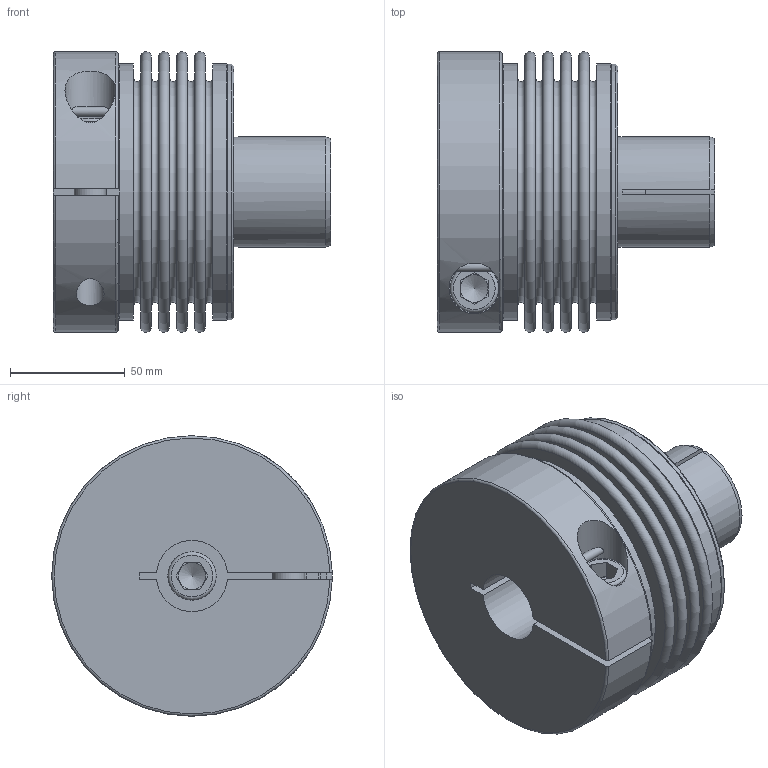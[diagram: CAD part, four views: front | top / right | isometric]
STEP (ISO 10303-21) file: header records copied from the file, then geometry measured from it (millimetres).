
FILE_DESCRIPTION(/* description */ ('Unknown'),/* implementation_level */ '2;1');
FILE_NAME(/* name */ 'KPS 600',/* time_stamp */ '2021-02-22T13:33:24+01:00',/* author */ ('Unknown'),/* organization */ ('Unknown'),/* preprocessor_version */ 'ST-DEVELOPER v16.7',/* originating_system */ 'DEX',/* authorisation */ $);
FILE_SCHEMA (('AUTOMOTIVE_DESIGN {1 0 10303 214 3 1 1}'));
Length unit declared in the file: millimetre
Products named in the file (1): KPS 600
Bounding box: 120.5 x 122 x 122 mm (x, y, z)
Volume: 543369.9 mm3; surface area: 167396.5 mm2
Topology: 1 solids, 1 shells, 126 faces, 277 edges, 180 vertices
Faces by surface type: plane 73, torus 22, cylinder 21, cone 10
Full cylindrical faces by diameter (mm): 12 x1, 14 x2, 14.5 x1, 15 x1, 21 x2, 22 x1, 48 x1, 110 x1, 111 x1, 111.6 x2
Entity records: 3304 total; most frequent: CARTESIAN_POINT 654, DIRECTION 572, ORIENTED_EDGE 442, AXIS2_PLACEMENT_3D 235, EDGE_CURVE 221, FACE_BOUND 202, EDGE_LOOP 198, VERTEX_POINT 167
